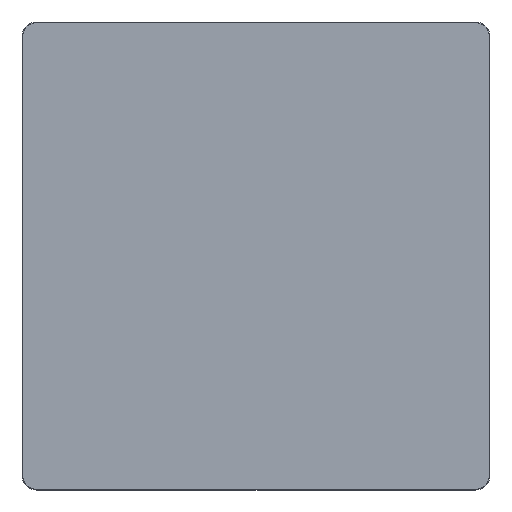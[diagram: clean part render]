
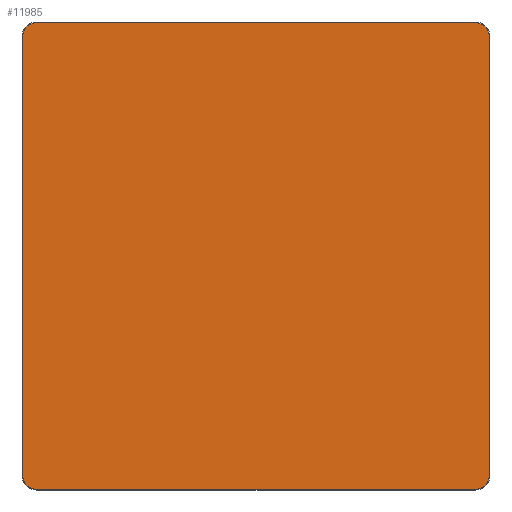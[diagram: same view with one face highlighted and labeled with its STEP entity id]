
A CAD part, top view. The second image highlights one B-rep face of the part: STEP entity #11985.
In plain terms, the highlighted planar face has unit normal (0, 0, 1).
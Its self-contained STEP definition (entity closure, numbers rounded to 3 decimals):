
#11910=CARTESIAN_POINT('',(0.,0.,20.));
#11911=DIRECTION('',(1.,0.,0.));
#11912=DIRECTION('',(0.,0.,1.));
#11913=AXIS2_PLACEMENT_3D('',#11910,#11912,#11911);
#11914=PLANE('',#11913);
#11915=CARTESIAN_POINT('',(-515.,-548.5,20.));
#11916=VERTEX_POINT('',#11915);
#11917=CARTESIAN_POINT('',(515.,-548.5,20.));
#11918=VERTEX_POINT('',#11917);
#11919=CARTESIAN_POINT('',(-515.,-548.5,20.));
#11920=DIRECTION('',(1.,0.,0.));
#11921=VECTOR('',#11920,1030.);
#11922=LINE('',#11919,#11921);
#11923=EDGE_CURVE('',#11916,#11918,#11922,.T.);
#11924=ORIENTED_EDGE('E105',*,*,#11923,.T.);
#11925=CARTESIAN_POINT('',(548.5,-515.,20.));
#11926=VERTEX_POINT('',#11925);
#11927=CARTESIAN_POINT('',(515.,-515.,20.));
#11928=DIRECTION('',(0.,-1.,0.));
#11929=DIRECTION('',(0.,0.,1.));
#11930=AXIS2_PLACEMENT_3D('',#11927,#11929,#11928);
#11931=CIRCLE('',#11930,33.5);
#11932=EDGE_CURVE('',#11918,#11926,#11931,.T.);
#11933=ORIENTED_EDGE('E107',*,*,#11932,.T.);
#11934=CARTESIAN_POINT('',(548.5,515.,20.));
#11935=VERTEX_POINT('',#11934);
#11936=CARTESIAN_POINT('',(548.5,-515.,20.));
#11937=DIRECTION('',(0.,1.,0.));
#11938=VECTOR('',#11937,1030.);
#11939=LINE('',#11936,#11938);
#11940=EDGE_CURVE('',#11926,#11935,#11939,.T.);
#11941=ORIENTED_EDGE('E109',*,*,#11940,.T.);
#11942=CARTESIAN_POINT('',(515.,548.5,20.));
#11943=VERTEX_POINT('',#11942);
#11944=CARTESIAN_POINT('',(515.,515.,20.));
#11945=DIRECTION('',(1.,0.,0.));
#11946=DIRECTION('',(0.,0.,1.));
#11947=AXIS2_PLACEMENT_3D('',#11944,#11946,#11945);
#11948=CIRCLE('',#11947,33.5);
#11949=EDGE_CURVE('',#11935,#11943,#11948,.T.);
#11950=ORIENTED_EDGE('E111',*,*,#11949,.T.);
#11951=CARTESIAN_POINT('',(-515.,548.5,20.));
#11952=VERTEX_POINT('',#11951);
#11953=CARTESIAN_POINT('',(515.,548.5,20.));
#11954=DIRECTION('',(-1.,0.,0.));
#11955=VECTOR('',#11954,1030.);
#11956=LINE('',#11953,#11955);
#11957=EDGE_CURVE('',#11943,#11952,#11956,.T.);
#11958=ORIENTED_EDGE('E113',*,*,#11957,.T.);
#11959=CARTESIAN_POINT('',(-548.5,515.,20.));
#11960=VERTEX_POINT('',#11959);
#11961=CARTESIAN_POINT('',(-515.,515.,20.));
#11962=DIRECTION('',(0.,1.,0.));
#11963=DIRECTION('',(0.,0.,1.));
#11964=AXIS2_PLACEMENT_3D('',#11961,#11963,#11962);
#11965=CIRCLE('',#11964,33.5);
#11966=EDGE_CURVE('',#11952,#11960,#11965,.T.);
#11967=ORIENTED_EDGE('E115',*,*,#11966,.T.);
#11968=CARTESIAN_POINT('',(-548.5,-515.,20.));
#11969=VERTEX_POINT('',#11968);
#11970=CARTESIAN_POINT('',(-548.5,515.,20.));
#11971=DIRECTION('',(0.,-1.,0.));
#11972=VECTOR('',#11971,1030.);
#11973=LINE('',#11970,#11972);
#11974=EDGE_CURVE('',#11960,#11969,#11973,.T.);
#11975=ORIENTED_EDGE('E117',*,*,#11974,.T.);
#11976=CARTESIAN_POINT('',(-515.,-515.,20.));
#11977=DIRECTION('',(-1.,0.,0.));
#11978=DIRECTION('',(-0.,0.,1.));
#11979=AXIS2_PLACEMENT_3D('',#11976,#11978,#11977);
#11980=CIRCLE('',#11979,33.5);
#11981=EDGE_CURVE('',#11969,#11916,#11980,.T.);
#11982=ORIENTED_EDGE('E119',*,*,#11981,.T.);
#11983=EDGE_LOOP('',(#11924,#11933,#11941,#11950,#11958,#11967,#11975,#11982));
#11984=FACE_OUTER_BOUND('',#11983,.T.);
#11985=ADVANCED_FACE('F2',(#11984),#11914,.T.);
